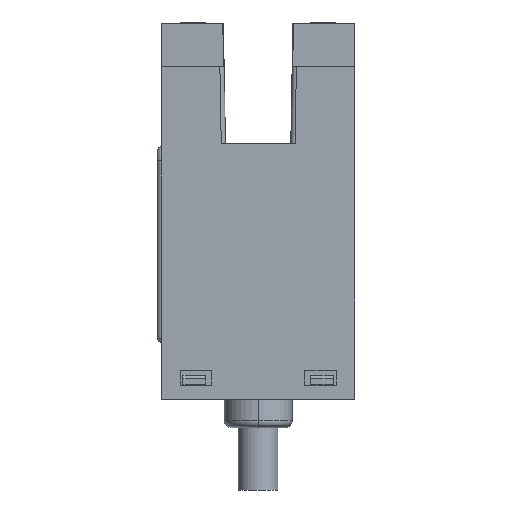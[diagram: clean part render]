
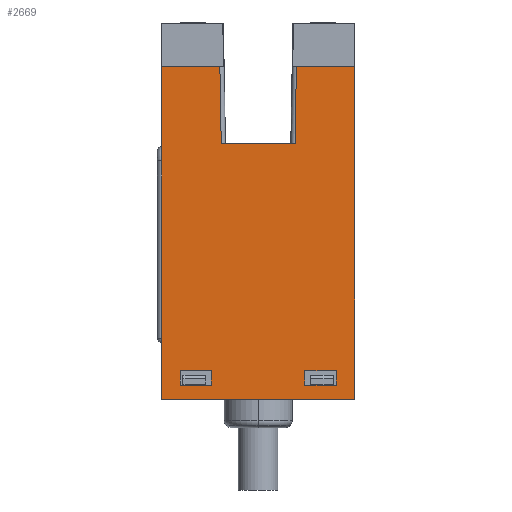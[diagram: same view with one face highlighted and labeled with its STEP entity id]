
A CAD part, left-side view. The second image highlights one B-rep face of the part: STEP entity #2669.
In plain terms, the highlighted planar face has unit normal (-1, 0, 0).
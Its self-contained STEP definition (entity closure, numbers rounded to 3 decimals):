
#336=DIRECTION('',(0.,0.,-1.));
#337=VECTOR('',#336,12.5);
#338=CARTESIAN_POINT('',(-3.25,26.7,16.8));
#339=LINE('',#338,#337);
#362=DIRECTION('',(0.,0.,-1.));
#363=VECTOR('',#362,6.665);
#364=CARTESIAN_POINT('',(-3.25,26.7,23.465));
#365=LINE('',#364,#363);
#396=CARTESIAN_POINT('',(-3.25,17.298,18.));
#467=DIRECTION('',(0.,1.,0.));
#468=VECTOR('',#467,4.102);
#469=CARTESIAN_POINT('',(-3.25,13.1,23.465));
#470=LINE('',#469,#468);
#481=DIRECTION('',(0.,-0.017,-1.));
#482=VECTOR('',#481,5.466);
#483=CARTESIAN_POINT('',(-3.25,22.598,23.465));
#484=LINE('',#483,#482);
#485=DIRECTION('',(0.,-1.,0.));
#486=VECTOR('',#485,5.205);
#487=CARTESIAN_POINT('',(-3.25,22.503,18.));
#488=LINE('',#487,#486);
#489=DIRECTION('',(0.,-0.017,1.));
#490=VECTOR('',#489,5.466);
#491=CARTESIAN_POINT('',(-3.25,17.298,18.));
#492=LINE('',#491,#490);
#493=DIRECTION('',(0.,1.,0.));
#494=VECTOR('',#493,13.6);
#495=CARTESIAN_POINT('',(-3.25,13.1,0.));
#496=LINE('',#495,#494);
#497=DIRECTION('',(0.,0.,1.));
#498=VECTOR('',#497,4.3);
#499=CARTESIAN_POINT('',(-3.25,26.7,0.));
#500=LINE('',#499,#498);
#501=DIRECTION('',(0.,0.,1.));
#502=VECTOR('',#501,1.);
#503=CARTESIAN_POINT('',(-3.25,14.4,1.));
#504=LINE('',#503,#502);
#505=DIRECTION('',(0.,1.,0.));
#506=VECTOR('',#505,2.2);
#507=CARTESIAN_POINT('',(-3.25,14.4,2.));
#508=LINE('',#507,#506);
#509=DIRECTION('',(0.,-1.,0.));
#510=VECTOR('',#509,2.2);
#511=CARTESIAN_POINT('',(-3.25,16.6,1.));
#512=LINE('',#511,#510);
#513=DIRECTION('',(0.,0.,1.));
#514=VECTOR('',#513,1.);
#515=CARTESIAN_POINT('',(-3.25,23.201,1.));
#516=LINE('',#515,#514);
#517=DIRECTION('',(0.,1.,0.));
#518=VECTOR('',#517,2.2);
#519=CARTESIAN_POINT('',(-3.25,23.201,2.));
#520=LINE('',#519,#518);
#521=DIRECTION('',(0.,-1.,0.));
#522=VECTOR('',#521,2.2);
#523=CARTESIAN_POINT('',(-3.25,25.401,1.));
#524=LINE('',#523,#522);
#535=DIRECTION('',(0.,1.,0.));
#536=VECTOR('',#535,4.102);
#537=CARTESIAN_POINT('',(-3.25,22.598,23.465));
#538=LINE('',#537,#536);
#673=DIRECTION('',(0.,0.,1.));
#674=VECTOR('',#673,23.465);
#675=CARTESIAN_POINT('',(-3.25,13.1,0.));
#676=LINE('',#675,#674);
#1263=DIRECTION('',(0.,0.,1.));
#1264=VECTOR('',#1263,1.);
#1265=CARTESIAN_POINT('',(-3.25,16.6,1.));
#1266=LINE('',#1265,#1264);
#1287=DIRECTION('',(0.,0.,1.));
#1288=VECTOR('',#1287,1.);
#1289=CARTESIAN_POINT('',(-3.25,25.401,1.));
#1290=LINE('',#1289,#1288);
#1717=CARTESIAN_POINT('',(-3.25,26.701,4.3));
#1718=VERTEX_POINT('',#1717);
#1721=CARTESIAN_POINT('',(-3.25,26.701,16.8));
#1722=VERTEX_POINT('',#1721);
#1731=CARTESIAN_POINT('',(-3.25,26.7,23.465));
#1732=VERTEX_POINT('',#1731);
#1742=VERTEX_POINT('',#396);
#1743=CARTESIAN_POINT('',(-3.25,22.503,18.));
#1744=VERTEX_POINT('',#1743);
#1776=CARTESIAN_POINT('',(-3.25,13.1,23.465));
#1777=CARTESIAN_POINT('',(-3.25,17.203,23.465));
#1778=VERTEX_POINT('',#1776);
#1779=VERTEX_POINT('',#1777);
#1780=CARTESIAN_POINT('',(-3.25,22.598,23.465));
#1781=VERTEX_POINT('',#1780);
#1782=CARTESIAN_POINT('',(-3.25,13.1,0.));
#1783=VERTEX_POINT('',#1782);
#1784=CARTESIAN_POINT('',(-3.25,26.7,0.));
#1785=VERTEX_POINT('',#1784);
#1786=CARTESIAN_POINT('',(-3.25,14.4,1.));
#1787=CARTESIAN_POINT('',(-3.25,14.4,2.));
#1788=VERTEX_POINT('',#1786);
#1789=VERTEX_POINT('',#1787);
#1790=CARTESIAN_POINT('',(-3.25,16.6,2.));
#1791=VERTEX_POINT('',#1790);
#1792=CARTESIAN_POINT('',(-3.25,16.6,1.));
#1793=VERTEX_POINT('',#1792);
#1794=CARTESIAN_POINT('',(-3.25,23.201,1.));
#1795=CARTESIAN_POINT('',(-3.25,23.201,2.));
#1796=VERTEX_POINT('',#1794);
#1797=VERTEX_POINT('',#1795);
#1798=CARTESIAN_POINT('',(-3.25,25.401,2.));
#1799=VERTEX_POINT('',#1798);
#1800=CARTESIAN_POINT('',(-3.25,25.401,1.));
#1801=VERTEX_POINT('',#1800);
#2626=CARTESIAN_POINT('',(-3.25,19.901,22.));
#2627=DIRECTION('',(1.,0.,0.));
#2628=DIRECTION('',(0.,0.,1.));
#2629=AXIS2_PLACEMENT_3D('',#2626,#2627,#2628);
#2630=PLANE('',#2629);
#2631=ORIENTED_EDGE('',*,*,#2434,.F.);
#2632=ORIENTED_EDGE('',*,*,#2469,.F.);
#2634=ORIENTED_EDGE('',*,*,#2633,.F.);
#2636=ORIENTED_EDGE('',*,*,#2635,.T.);
#2637=ORIENTED_EDGE('',*,*,#2517,.T.);
#2639=ORIENTED_EDGE('',*,*,#2638,.T.);
#2640=ORIENTED_EDGE('',*,*,#2616,.F.);
#2642=ORIENTED_EDGE('',*,*,#2641,.F.);
#2644=ORIENTED_EDGE('',*,*,#2643,.T.);
#2646=ORIENTED_EDGE('',*,*,#2645,.T.);
#2647=EDGE_LOOP('',(#2631,#2632,#2634,#2636,#2637,#2639,#2640,#2642,#2644,
#2646));
#2648=FACE_OUTER_BOUND('',#2647,.F.);
#2650=ORIENTED_EDGE('',*,*,#2649,.T.);
#2652=ORIENTED_EDGE('',*,*,#2651,.T.);
#2654=ORIENTED_EDGE('',*,*,#2653,.F.);
#2656=ORIENTED_EDGE('',*,*,#2655,.T.);
#2657=EDGE_LOOP('',(#2650,#2652,#2654,#2656));
#2658=FACE_BOUND('',#2657,.F.);
#2660=ORIENTED_EDGE('',*,*,#2659,.T.);
#2662=ORIENTED_EDGE('',*,*,#2661,.T.);
#2664=ORIENTED_EDGE('',*,*,#2663,.F.);
#2666=ORIENTED_EDGE('',*,*,#2665,.T.);
#2667=EDGE_LOOP('',(#2660,#2662,#2664,#2666));
#2668=FACE_BOUND('',#2667,.F.);
#2669=ADVANCED_FACE('',(#2648,#2658,#2668),#2630,.F.);
#2434=EDGE_CURVE('',#1722,#1718,#339,.T.);
#2469=EDGE_CURVE('',#1732,#1722,#365,.T.);
#2517=EDGE_CURVE('',#1744,#1742,#488,.T.);
#2616=EDGE_CURVE('',#1778,#1779,#470,.T.);
#2633=EDGE_CURVE('',#1781,#1732,#538,.T.);
#2635=EDGE_CURVE('',#1781,#1744,#484,.T.);
#2638=EDGE_CURVE('',#1742,#1779,#492,.T.);
#2641=EDGE_CURVE('',#1783,#1778,#676,.T.);
#2643=EDGE_CURVE('',#1783,#1785,#496,.T.);
#2645=EDGE_CURVE('',#1785,#1718,#500,.T.);
#2649=EDGE_CURVE('',#1788,#1789,#504,.T.);
#2651=EDGE_CURVE('',#1789,#1791,#508,.T.);
#2653=EDGE_CURVE('',#1793,#1791,#1266,.T.);
#2655=EDGE_CURVE('',#1793,#1788,#512,.T.);
#2659=EDGE_CURVE('',#1796,#1797,#516,.T.);
#2661=EDGE_CURVE('',#1797,#1799,#520,.T.);
#2663=EDGE_CURVE('',#1801,#1799,#1290,.T.);
#2665=EDGE_CURVE('',#1801,#1796,#524,.T.);
